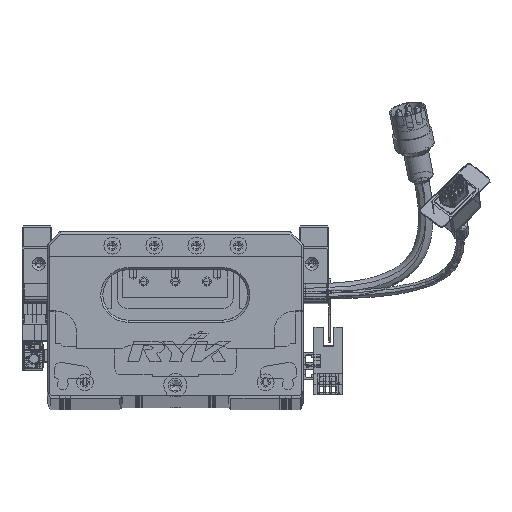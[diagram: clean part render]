
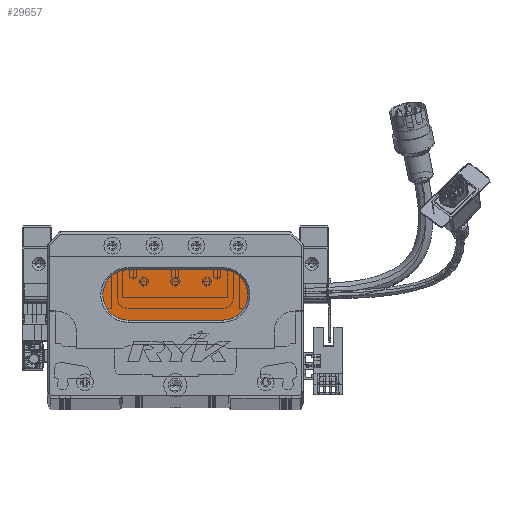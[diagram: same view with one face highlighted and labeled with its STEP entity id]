
A CAD part, top view. The second image highlights one B-rep face of the part: STEP entity #29657.
In plain terms, the highlighted planar face has unit normal (0, 0, 1) as drawn and (0, 0, -1) by its records, which use the part's own axes.
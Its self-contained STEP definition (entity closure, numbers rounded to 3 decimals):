
#1710 = CARTESIAN_POINT ( 'NONE',  ( 83.5, 60., 13. ) ) ;
#6809 = EDGE_LOOP ( 'NONE', ( #91769, #59398, #127456, #71258, #42048 ) ) ;
#10666 = DIRECTION ( 'NONE',  ( 1., 0., 0. ) ) ;
#11010 = EDGE_CURVE ( 'NONE', #44996, #138239, #19304, .T. ) ;
#14798 = CARTESIAN_POINT ( 'NONE',  ( 83.5, 36., 13. ) ) ;
#19303 = DIRECTION ( 'NONE',  ( 0., 0., -1. ) ) ;
#19304 = CIRCLE ( 'NONE', #69953, 12. ) ;
#24744 = CARTESIAN_POINT ( 'NONE',  ( 38.5, 36., 13. ) ) ;
#27601 = VECTOR ( 'NONE', #10666, 1000. ) ;
#29657 = ADVANCED_FACE ( 'NONE', ( #57325 ), #86081, .T. ) ;
#35184 = CARTESIAN_POINT ( 'NONE',  ( 38.5, 48., 13. ) ) ;
#41733 = DIRECTION ( 'NONE',  ( -1., 0., 0. ) ) ;
#42048 = ORIENTED_EDGE ( 'NONE', *, *, #54727, .T. ) ;
#43673 = AXIS2_PLACEMENT_3D ( 'NONE', #117825, #76775, #55380 ) ;
#44996 = VERTEX_POINT ( 'NONE', #1710 ) ;
#46141 = DIRECTION ( 'NONE',  ( -1., 0., 0. ) ) ;
#51600 = CARTESIAN_POINT ( 'NONE',  ( 83.5, 48., 13. ) ) ;
#51660 = CIRCLE ( 'NONE', #43673, 12. ) ;
#53630 = CARTESIAN_POINT ( 'NONE',  ( 83.5, 48., 13. ) ) ;
#53717 = EDGE_CURVE ( 'NONE', #98034, #118353, #75331, .T. ) ;
#54727 = EDGE_CURVE ( 'NONE', #97100, #44996, #133281, .T. ) ;
#55380 = DIRECTION ( 'NONE',  ( -1., 0., 0. ) ) ;
#56323 = CARTESIAN_POINT ( 'NONE',  ( 83.5, 36., 13. ) ) ;
#57325 = FACE_OUTER_BOUND ( 'NONE', #6809, .T. ) ;
#59398 = ORIENTED_EDGE ( 'NONE', *, *, #100438, .T. ) ;
#60045 = VECTOR ( 'NONE', #46141, 1000. ) ;
#64593 = AXIS2_PLACEMENT_3D ( 'NONE', #35184, #133817, #100457 ) ;
#69953 = AXIS2_PLACEMENT_3D ( 'NONE', #51600, #19303, #73948 ) ;
#71258 = ORIENTED_EDGE ( 'NONE', *, *, #98808, .T. ) ;
#73948 = DIRECTION ( 'NONE',  ( -1., 0., 0. ) ) ;
#75331 = CIRCLE ( 'NONE', #64593, 12. ) ;
#76775 = DIRECTION ( 'NONE',  ( 0., 0., -1. ) ) ;
#84582 = CARTESIAN_POINT ( 'NONE',  ( 26.5, 48., 13. ) ) ;
#86081 = PLANE ( 'NONE',  #90904 ) ;
#90904 = AXIS2_PLACEMENT_3D ( 'NONE', #53630, #96093, #41733 ) ;
#91769 = ORIENTED_EDGE ( 'NONE', *, *, #11010, .T. ) ;
#96093 = DIRECTION ( 'NONE',  ( 0., 0., -1. ) ) ;
#97100 = VERTEX_POINT ( 'NONE', #133833 ) ;
#98034 = VERTEX_POINT ( 'NONE', #24744 ) ;
#98808 = EDGE_CURVE ( 'NONE', #118353, #97100, #51660, .T. ) ;
#100438 = EDGE_CURVE ( 'NONE', #138239, #98034, #131735, .T. ) ;
#100457 = DIRECTION ( 'NONE',  ( -1., 0., 0. ) ) ;
#117825 = CARTESIAN_POINT ( 'NONE',  ( 38.5, 48., 13. ) ) ;
#118353 = VERTEX_POINT ( 'NONE', #84582 ) ;
#119696 = CARTESIAN_POINT ( 'NONE',  ( 83.5, 60., 13. ) ) ;
#127456 = ORIENTED_EDGE ( 'NONE', *, *, #53717, .T. ) ;
#131735 = LINE ( 'NONE', #14798, #60045 ) ;
#133281 = LINE ( 'NONE', #119696, #27601 ) ;
#133817 = DIRECTION ( 'NONE',  ( 0., 0., -1. ) ) ;
#133833 = CARTESIAN_POINT ( 'NONE',  ( 38.5, 60., 13. ) ) ;
#138239 = VERTEX_POINT ( 'NONE', #56323 ) ;
